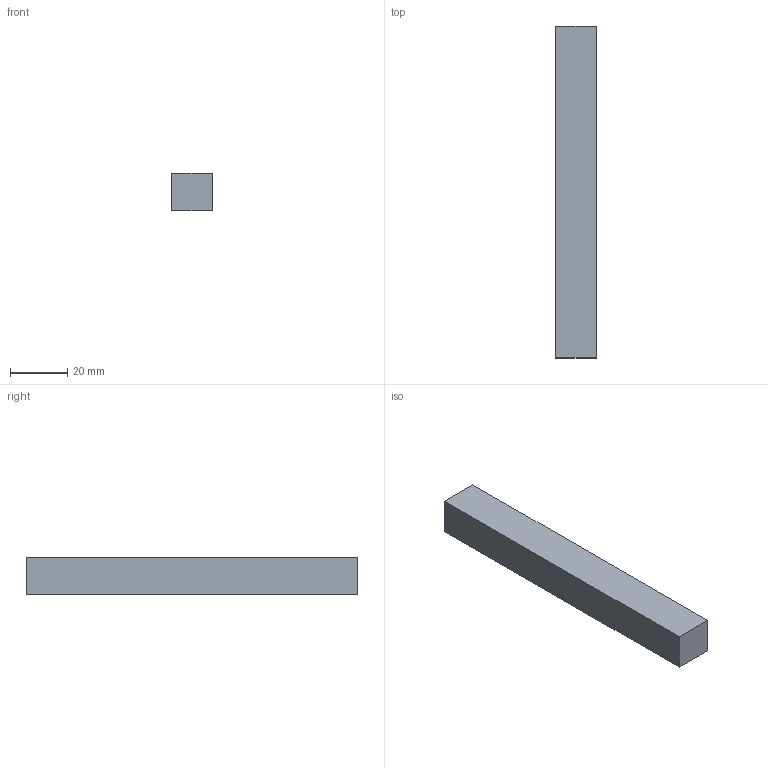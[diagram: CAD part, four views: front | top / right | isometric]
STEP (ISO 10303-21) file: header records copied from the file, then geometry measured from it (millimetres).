
FILE_DESCRIPTION(('Open CASCADE Model'),'2;1');
FILE_NAME('Open CASCADE Shape Model','2026-10-04T02:31:38',('Author'),( 'Open CASCADE'),'Open CASCADE STEP processor 8.0','Open CASCADE 8.0' ,'Unknown');
FILE_SCHEMA(('AUTOMOTIVE_DESIGN { 1 0 10303 214 1 1 1 1 }'));
Length unit declared in the file: millimetre
Products named in the file (1): Open CASCADE STEP translator 8.0 140
Bounding box: 14 x 116 x 13 mm (x, y, z)
Volume: 21112 mm3; surface area: 6628 mm2
Topology: 1 solids, 1 shells, 6 faces, 12 edges, 8 vertices
Faces by surface type: plane 6
Entity records: 322 total; most frequent: CARTESIAN_POINT 51, DIRECTION 50, LINE 36, VECTOR 36, ORIENTED_EDGE 24, PCURVE 24, DEFINITIONAL_REPRESENTATION 24, EDGE_CURVE 12
